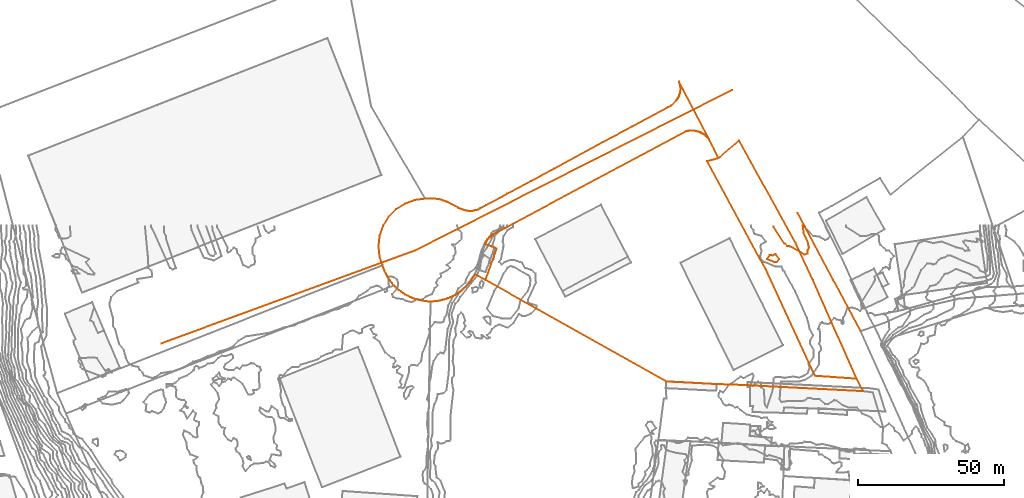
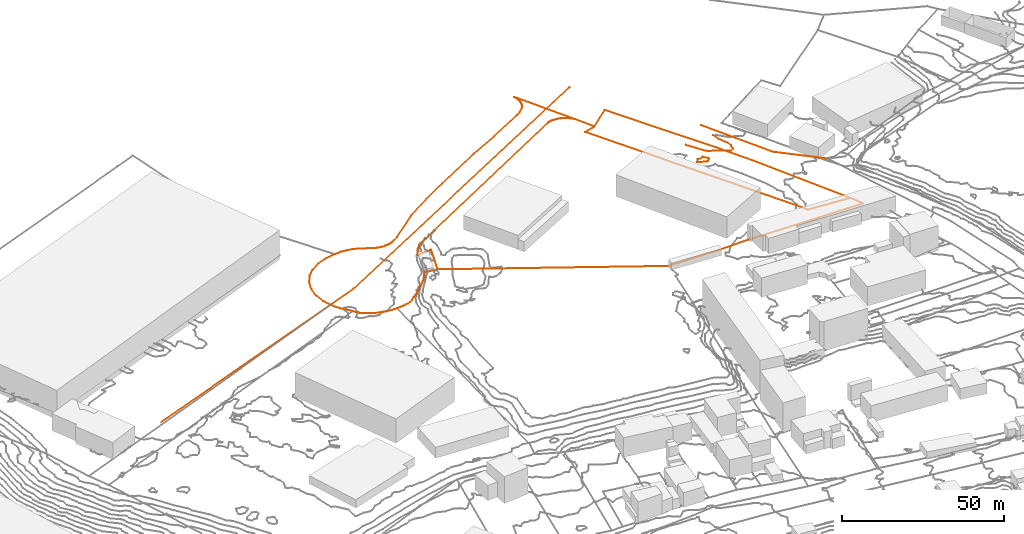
# Not in any storey, part 346 of 419: 7 proxies.
"""IFC2X3 model written with IfcOpenShell, lengths in metres."""

from ifc_helpers import new_model, entity, si_unit, frame, origin_with_axes, place, context, subcontext, project, element, save


model = new_model("IFC2X3")

# Units and contexts
model_context = context("Model", 3, precision=1e-05, world=origin_with_axes())
body_context = subcontext(model_context, "Body", "Model", "MODEL_VIEW")
ifc_project = project(units=[si_unit("AREAUNIT", "SQUARE_METRE"), si_unit("LENGTHUNIT", "METRE")], contexts=[model_context])

# Proxies
proxy_1_placement = place(None, frame((573.6920204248, 1036.6976909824, 52.7), z_axis=(0.0, 0.0, 1.0), x_axis=(1.0, 0.0, 0.0)))
element("IfcBuildingElementProxy", 1, at=proxy_1_placement, Name="Route 66", ObjectType="NOTDEFINED", context=body_context, shape_type="GeometricCurveSet", body=[
    entity("IfcGeometricCurveSet", [entity("IfcPolyline", [entity("IfcCartesianPoint", [21.6, -40.5, 4.4]), entity("IfcCartesianPoint", [12.2000000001, -22.8999999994, -0.4]), entity("IfcCartesianPoint", [0.0, 0.0, 0.0])])]),
])
proxy_2_placement = place(None, frame((354.8920204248, 991.8976909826, 44.4), z_axis=(0.0, 0.0, 1.0), x_axis=(1.0, 0.0, 0.0)))
element("IfcBuildingElementProxy", 2, at=proxy_2_placement, Name="Route 325", ObjectType="NOTDEFINED", context=body_context, shape_type="GeometricCurveSet", body=[
    entity("IfcGeometricCurveSet", [entity("IfcPolyline", [entity("IfcCartesianPoint", [0.0, 0.0, 0.0]), entity("IfcCartesianPoint", [87.3999999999, 32.0, 0.4]), entity("IfcCartesianPoint", [196.2, 87.0999999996, 5.0])])]),
])
proxy_3_placement = place(None, frame((466.3920204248, 1026.0976909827, 47.6540006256), z_axis=(0.0, 0.0, 1.0), x_axis=(1.0, 0.0, 0.0)))
element("IfcBuildingElementProxy", 3, at=proxy_3_placement, Name="Cadastre 273", ObjectType="NOTDEFINED", context=body_context, shape_type="GeometricCurveSet", body=[
    entity("IfcGeometricCurveSet", [entity("IfcPolyline", [entity("IfcCartesianPoint", [0.0599999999, -12.3499999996, 2.159450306]), entity("IfcCartesianPoint", [3.9299999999, -1.5499999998, 1.7422347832]), entity("IfcCartesianPoint", [0.0, 0.0, 0.0]), entity("IfcCartesianPoint", [0.02, 0.0599999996, -0.0094000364]), entity("IfcCartesianPoint", [0.15, 0.3799999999, -0.0421402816]), entity("IfcCartesianPoint", [0.3099999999, 0.7000000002, -0.0508803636]), entity("IfcCartesianPoint", [0.49, 1.0099999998, -0.0282283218]), entity("IfcCartesianPoint", [0.6599999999, 1.3200000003, -0.0073520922]), entity("IfcCartesianPoint", [0.86, 1.6100000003, 0.0155239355]), entity("IfcCartesianPoint", [1.08, 1.8899999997, 0.0526477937]), entity("IfcCartesianPoint", [1.2999999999, 2.1299999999, 0.1039294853]), entity("IfcCartesianPoint", [1.3199999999, 2.1500000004, 0.1092194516]), entity("IfcCartesianPoint", [1.5599999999, 2.4100000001, 0.1544510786]), entity("IfcCartesianPoint", [1.8199999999, 2.6500000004, 0.3003889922]), entity("IfcCartesianPoint", [2.09, 2.8799999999, 0.5688932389]), entity("IfcCartesianPoint", [2.37, 3.0899999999, 0.9059283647]), entity("IfcCartesianPoint", [2.6599999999, 3.29, 1.2441611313]), entity("IfcCartesianPoint", [2.83, 3.3899999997, 1.365392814]), entity("IfcCartesianPoint", [68.77, 38.6200000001, 2.5945996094]), entity("IfcCartesianPoint", [69.14, 38.7199999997, 2.5872008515]), entity("IfcCartesianPoint", [69.51, 38.7999999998, 2.5860010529]), entity("IfcCartesianPoint", [69.88, 38.8700000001, 2.5860010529]), entity("IfcCartesianPoint", [70.26, 38.9199999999, 2.5848010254]), entity("IfcCartesianPoint", [70.64, 38.9399999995, 2.5772008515]), entity("IfcCartesianPoint", [71.02, 38.9500000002, 2.5696006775]), entity("IfcCartesianPoint", [71.4099999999, 38.9399999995, 2.5681002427]), entity("IfcCartesianPoint", [71.7899999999, 38.9000000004, 2.5718996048]), entity("IfcCartesianPoint", [72.1699999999, 38.8499999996, 2.575698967]), entity("IfcCartesianPoint", [72.5399999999, 38.7800000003, 2.579399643]), entity("IfcCartesianPoint", [72.9099999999, 38.6799999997, 2.5831004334]), entity("IfcCartesianPoint", [73.13, 38.6299999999, 2.5853009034]), entity("IfcCartesianPoint", [73.28, 38.5800000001, 2.5860010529]), entity("IfcCartesianPoint", [73.64, 38.4500000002, 2.5860010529]), entity("IfcCartesianPoint", [73.99, 38.2999999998, 2.5860010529]), entity("IfcCartesianPoint", [74.34, 38.1299999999, 2.5874008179]), entity("IfcCartesianPoint", [74.6799999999, 37.9500000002, 2.5908002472]), entity("IfcCartesianPoint", [74.99, 37.75, 2.5938997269]), entity("IfcCartesianPoint", [75.3099999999, 37.5300000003, 2.5959993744]), entity("IfcCartesianPoint", [75.61, 37.29, 2.5959993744]), entity("IfcCartesianPoint", [75.9, 37.04, 2.5959993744]), entity("IfcCartesianPoint", [76.1799999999, 36.7800000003, 2.5959993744]), entity("IfcCartesianPoint", [76.4299999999, 36.5, 2.6005994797]), entity("IfcCartesianPoint", [76.9299999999, 35.8899999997, 2.6105997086]), entity("IfcCartesianPoint", [80.0399999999, 29.4799999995, 2.6411988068]), entity("IfcCartesianPoint", [76.1899999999, 28.4199999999, 2.5959993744]), entity("IfcCartesianPoint", [96.38, -8.8499999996, 2.7374387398]), entity("IfcCartesianPoint", [113.23, -45.25, 5.0003838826]), entity("IfcCartesianPoint", [127.49, -46.2400000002, 5.0180644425]), entity("IfcCartesianPoint", [129.78, -50.5300000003, 4.7511689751]), entity("IfcCartesianPoint", [88.11, -48.3899999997, 3.7241930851]), entity("IfcCartesianPoint", [79.46, -48.0899999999, 3.2177404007]), entity("IfcCartesianPoint", [62.0699999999, -47.1600000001, 2.8262970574]), entity("IfcCartesianPoint", [0.0599999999, -12.3499999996, 2.159450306])])]),
])
proxy_4_placement = place(None, frame((542.5820204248, 1054.5176909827, 50.25), z_axis=(0.0, 0.0, 1.0), x_axis=(1.0, 0.0, 0.0)))
element("IfcBuildingElementProxy", 4, at=proxy_4_placement, Name="Cadastre 276", ObjectType="NOTDEFINED", context=body_context, shape_type="GeometricCurveSet", body=[
    entity("IfcGeometricCurveSet", [entity("IfcPolyline", [entity("IfcCartesianPoint", [10.99, 7.1200000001, 0.109200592]), entity("IfcCartesianPoint", [30.3, -27.9500000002, 0.5736083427]), entity("IfcCartesianPoint", [36.3100000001, -40.7699999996, 1.2098507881]), entity("IfcCartesianPoint", [51.3, -74.6600000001, 2.4220650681]), entity("IfcCartesianPoint", [37.04, -73.6699999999, 2.4043845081]), entity("IfcCartesianPoint", [20.1900000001, -37.2699999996, 0.1414393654]), entity("IfcCartesianPoint", [0.0, 0.0, 0.0]), entity("IfcCartesianPoint", [3.85, 1.0599999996, 0.0451994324]), entity("IfcCartesianPoint", [10.99, 7.1200000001, 0.109200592])])]),
])
proxy_5_placement = place(None, frame((429.7620204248, 1025.417690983, 45.7138632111), z_axis=(0.0, 0.0, 1.0), x_axis=(1.0, 0.0, 0.0)))
element("IfcBuildingElementProxy", 5, at=proxy_5_placement, Name="Cadastre 280", ObjectType="NOTDEFINED", context=body_context, shape_type="GeometricCurveSet", body=[
    entity("IfcGeometricCurveSet", [entity("IfcPolyline", [entity("IfcCartesianPoint", [17.87, -19.04, 0.4679530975]), entity("IfcCartesianPoint", [16.96, -19.0100000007, 0.413722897]), entity("IfcCartesianPoint", [16.0499999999, -18.9300000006, 0.384523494]), entity("IfcCartesianPoint", [15.15, -18.8000000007, 0.3564331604]), entity("IfcCartesianPoint", [14.25, -18.6400000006, 0.3265447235]), entity("IfcCartesianPoint", [13.37, -18.4100000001, 0.3158485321]), entity("IfcCartesianPoint", [12.51, -18.1400000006, 0.3048880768]), entity("IfcCartesianPoint", [11.65, -17.8400000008, 0.2505843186]), entity("IfcCartesianPoint", [10.99, -17.5700000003, 0.225396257]), entity("IfcCartesianPoint", [10.7999999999, -17.4900000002, 0.2194953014]), entity("IfcCartesianPoint", [9.98, -17.0900000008, 0.1990416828]), entity("IfcCartesianPoint", [9.1899999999, -16.6500000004, 0.1998715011]), entity("IfcCartesianPoint", [8.41, -16.1699999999, 0.2038255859]), entity("IfcCartesianPoint", [7.6699999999, -15.6500000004, 0.1804206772]), entity("IfcCartesianPoint", [6.95, -15.0900000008, 0.1748042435]), entity("IfcCartesianPoint", [6.27, -14.4900000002, 0.2334803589]), entity("IfcCartesianPoint", [5.61, -13.8600000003, 0.3559436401]), entity("IfcCartesianPoint", [5.27, -13.5200000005, 0.426935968]), entity("IfcCartesianPoint", [4.59, -12.71, 0.5233928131]), entity("IfcCartesianPoint", [4.01, -11.9400000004, 0.4805518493]), entity("IfcCartesianPoint", [3.46, -11.1400000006, 0.3693178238]), entity("IfcCartesianPoint", [2.97, -10.3100000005, 0.2899150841]), entity("IfcCartesianPoint", [2.9199999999, -10.21, 0.287359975]), entity("IfcCartesianPoint", [2.52, -9.46, 0.223644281]), entity("IfcCartesianPoint", [2.1, -8.5900000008, 0.1247363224]), entity("IfcCartesianPoint", [1.74, -7.6900000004, 0.0419358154]), entity("IfcCartesianPoint", [1.4299999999, -6.7800000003, 0.0249375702]), entity("IfcCartesianPoint", [1.39, -6.6300000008, 0.0208176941]), entity("IfcCartesianPoint", [0.38, -3.5800000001, -0.0240841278]), entity("IfcCartesianPoint", [0.0, 0.0, 0.0]), entity("IfcCartesianPoint", [0.41, 3.5800000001, 0.0204575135]), entity("IfcCartesianPoint", [1.61, 7.0, 0.2991372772]), entity("IfcCartesianPoint", [3.51, 10.0499999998, 0.2869361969]), entity("IfcCartesianPoint", [6.0399999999, 12.6199999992, -0.083862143]), entity("IfcCartesianPoint", [9.08, 14.5599999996, -0.0138643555]), entity("IfcCartesianPoint", [12.47, 15.7999999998, 0.0325373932]), entity("IfcCartesianPoint", [16.0399999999, 16.25, 0.0903361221]), entity("IfcCartesianPoint", [16.27, 16.2799999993, 0.0949362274]), entity("IfcCartesianPoint", [17.3099999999, 16.3399999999, 0.1205358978]), entity("IfcCartesianPoint", [18.35, 16.3300000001, 0.1465355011]), entity("IfcCartesianPoint", [19.38, 16.25, 0.1616368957]), entity("IfcCartesianPoint", [20.41, 16.1099999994, 0.1719368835]), entity("IfcCartesianPoint", [21.4199999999, 15.8899999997, 0.1997367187]), entity("IfcCartesianPoint", [22.41, 15.5899999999, 0.2161370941]), entity("IfcCartesianPoint", [23.39, 15.2299999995, 0.2217361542]), entity("IfcCartesianPoint", [23.7, 15.0699999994, 0.2248356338]), entity("IfcCartesianPoint", [27.2899999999, 13.2199999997, 0.2915358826]), entity("IfcCartesianPoint", [27.52, 13.0800000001, 0.2892362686]), entity("IfcCartesianPoint", [27.98, 12.8199999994, 0.2906366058]), entity("IfcCartesianPoint", [28.46, 12.5999999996, 0.3050360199]), entity("IfcCartesianPoint", [28.96, 12.4199999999, 0.3213356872]), entity("IfcCartesianPoint", [29.47, 12.2699999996, 0.3417361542]), entity("IfcCartesianPoint", [29.99, 12.1699999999, 0.3545367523]), entity("IfcCartesianPoint", [30.51, 12.0800000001, 0.3493376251]), entity("IfcCartesianPoint", [31.0399999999, 12.04, 0.3545375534]), entity("IfcCartesianPoint", [31.58, 12.04, 0.3761359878]), entity("IfcCartesianPoint", [32.11, 12.0699999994, 0.4001361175]), entity("IfcCartesianPoint", [32.63, 12.1499999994, 0.4261377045]), entity("IfcCartesianPoint", [33.15, 12.25, 0.4425372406]), entity("IfcCartesianPoint", [33.66, 12.3899999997, 0.4527355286]), entity("IfcCartesianPoint", [34.16, 12.5599999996, 0.4594356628]), entity("IfcCartesianPoint", [34.66, 12.7799999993, 0.4644367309]), entity("IfcCartesianPoint", [35.08, 13.0099999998, 0.4736367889]), entity("IfcCartesianPoint", [36.9299999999, 14.04, 0.5581372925]), entity("IfcCartesianPoint", [44.2, 17.9099999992, 3.790335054]), entity("IfcCartesianPoint", [52.36, 22.3099999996, 4.7255373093]), entity("IfcCartesianPoint", [60.28, 26.5499999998, 5.069137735]), entity("IfcCartesianPoint", [76.88, 35.6299999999, 5.0551372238]), entity("IfcCartesianPoint", [87.1, 41.0199999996, 4.6434368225]), entity("IfcCartesianPoint", [99.4299999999, 47.6499999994, 4.5661355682]), entity("IfcCartesianPoint", [100.4, 48.1599999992, 4.5661355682]), entity("IfcCartesianPoint", [102.1699999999, 49.8699999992, 4.5561372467]), entity("IfcCartesianPoint", [102.4399999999, 50.1999999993, 4.5561372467]), entity("IfcCartesianPoint", [102.6899999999, 50.5599999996, 4.5561372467]), entity("IfcCartesianPoint", [102.91, 50.9299999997, 4.5545372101]), entity("IfcCartesianPoint", [103.1, 51.3199999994, 4.5507371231]), entity("IfcCartesianPoint", [103.27, 51.7299999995, 4.5473370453]), entity("IfcCartesianPoint", [103.41, 52.1399999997, 4.5445369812]), entity("IfcCartesianPoint", [103.51, 52.5499999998, 4.5425369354]), entity("IfcCartesianPoint", [103.59, 52.9799999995, 4.5409368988]), entity("IfcCartesianPoint", [103.64, 53.4099999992, 4.5399368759]), entity("IfcCartesianPoint", [103.66, 53.8399999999, 4.5395368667]), entity("IfcCartesianPoint", [103.64, 54.2699999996, 4.5399368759]), entity("IfcCartesianPoint", [103.61, 54.6999999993, 4.5405368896]), entity("IfcCartesianPoint", [103.52, 55.1299999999, 4.5423369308]), entity("IfcCartesianPoint", [103.4199999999, 55.5499999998, 4.5443369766]), entity("IfcCartesianPoint", [103.14, 56.3899999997, 4.5499371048]), entity("IfcCartesianPoint", [113.5599999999, 36.5699999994, 4.5507371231]), entity("IfcCartesianPoint", [113.0599999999, 37.1799999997, 4.5407368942]), entity("IfcCartesianPoint", [112.8099999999, 37.46, 4.5361367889]), entity("IfcCartesianPoint", [112.53, 37.7199999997, 4.5361367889]), entity("IfcCartesianPoint", [112.24, 37.9699999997, 4.5361367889]), entity("IfcCartesianPoint", [111.9399999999, 38.21, 4.5361367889]), entity("IfcCartesianPoint", [111.62, 38.4299999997, 4.5340371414]), entity("IfcCartesianPoint", [111.3099999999, 38.6299999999, 4.5309376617]), entity("IfcCartesianPoint", [110.97, 38.8099999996, 4.5275382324]), entity("IfcCartesianPoint", [110.62, 38.9799999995, 4.5261384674]), entity("IfcCartesianPoint", [110.27, 39.1299999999, 4.5261384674]), entity("IfcCartesianPoint", [109.91, 39.2599999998, 4.5261384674]), entity("IfcCartesianPoint", [109.76, 39.3099999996, 4.5254383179]), entity("IfcCartesianPoint", [109.5399999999, 39.3599999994, 4.5232378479]), entity("IfcCartesianPoint", [109.1699999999, 39.46, 4.5195370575]), entity("IfcCartesianPoint", [108.7999999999, 39.5299999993, 4.5158363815]), entity("IfcCartesianPoint", [108.4199999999, 39.5800000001, 4.5120370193]), entity("IfcCartesianPoint", [108.0399999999, 39.6199999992, 4.5082376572]), entity("IfcCartesianPoint", [107.65, 39.6299999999, 4.509738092]), entity("IfcCartesianPoint", [107.27, 39.6199999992, 4.517338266]), entity("IfcCartesianPoint", [106.89, 39.5999999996, 4.5249384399]), entity("IfcCartesianPoint", [106.51, 39.5499999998, 4.5261384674]), entity("IfcCartesianPoint", [106.14, 39.4799999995, 4.5261384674]), entity("IfcCartesianPoint", [105.77, 39.3999999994, 4.527338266]), entity("IfcCartesianPoint", [105.4, 39.2999999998, 4.5347370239]), entity("IfcCartesianPoint", [39.46, 4.0699999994, 3.3055302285]), entity("IfcCartesianPoint", [39.2899999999, 3.9699999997, 3.1842985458]), entity("IfcCartesianPoint", [39.0, 3.7699999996, 2.8460657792]), entity("IfcCartesianPoint", [38.72, 3.5599999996, 2.5090306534]), entity("IfcCartesianPoint", [38.45, 3.3300000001, 2.2405264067]), entity("IfcCartesianPoint", [38.1899999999, 3.0899999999, 2.0945884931]), entity("IfcCartesianPoint", [37.95, 2.8300000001, 2.0493568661]), entity("IfcCartesianPoint", [37.9299999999, 2.8099999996, 2.0440668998]), entity("IfcCartesianPoint", [37.71, 2.5699999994, 1.9927852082]), entity("IfcCartesianPoint", [37.49, 2.29, 1.95566135]), entity("IfcCartesianPoint", [37.2899999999, 2.0, 1.9327853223]), entity("IfcCartesianPoint", [37.12, 1.6899999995, 1.9119090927]), entity("IfcCartesianPoint", [36.9399999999, 1.3799999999, 1.8892570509]), entity("IfcCartesianPoint", [36.78, 1.0599999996, 1.8979971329]), entity("IfcCartesianPoint", [36.65, 0.7399999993, 1.9307373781]), entity("IfcCartesianPoint", [36.63, 0.6799999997, 1.9401374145]), entity("IfcCartesianPoint", [40.5599999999, -0.8700000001, 3.6823721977]), entity("IfcCartesianPoint", [36.6899999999, -11.6699999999, 4.0995877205]), entity("IfcCartesianPoint", [33.09, -9.7600000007, 3.1275138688]), entity("IfcCartesianPoint", [32.7, -10.46, 3.1995093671]), entity("IfcCartesianPoint", [32.21, -11.25, 3.2718821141]), entity("IfcCartesianPoint", [31.7, -11.9900000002, 3.4072807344]), entity("IfcCartesianPoint", [31.14, -12.7000000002, 3.3866360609]), entity("IfcCartesianPoint", [30.5399999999, -13.3900000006, 3.3493392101]), entity("IfcCartesianPoint", [29.91, -14.04, 3.2070473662]), entity("IfcCartesianPoint", [29.25, -14.6699999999, 3.0553862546]), entity("IfcCartesianPoint", [28.5599999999, -15.25, 2.9794673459]), entity("IfcCartesianPoint", [27.83, -15.8000000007, 2.8551355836]), entity("IfcCartesianPoint", [27.08, -16.3000000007, 2.5011358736]), entity("IfcCartesianPoint", [26.86, -16.4400000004, 2.4246860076]), entity("IfcCartesianPoint", [26.2999999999, -16.7800000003, 2.1284677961]), entity("IfcCartesianPoint", [25.5, -17.21, 1.7703278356]), entity("IfcCartesianPoint", [24.6799999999, -17.5900000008, 1.3999117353]), entity("IfcCartesianPoint", [23.84, -17.9300000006, 0.8007222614]), entity("IfcCartesianPoint", [22.98, -18.2300000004, 0.5400367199]), entity("IfcCartesianPoint", [22.11, -18.4800000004, 0.4982805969]), entity("IfcCartesianPoint", [21.22, -18.6800000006, 0.4938634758]), entity("IfcCartesianPoint", [20.33, -18.8300000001, 0.4773363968]), entity("IfcCartesianPoint", [19.4299999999, -18.96, 0.4674159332]), entity("IfcCartesianPoint", [18.53, -19.0200000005, 0.4801374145]), entity("IfcCartesianPoint", [17.87, -19.04, 0.4679530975])])]),
])
proxy_6_placement = place(None, frame((565.440860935, 1031.8976909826, 51.0), z_axis=(0.0, 0.0, 1.0), x_axis=(1.0, 0.0, 0.0)))
element("IfcBuildingElementProxy", 6, at=proxy_6_placement, Name="Contour 51.0 m", ObjectType="NOTDEFINED", context=body_context, shape_type="GeometricCurveSet", body=[
    entity("IfcGeometricCurveSet", [entity("IfcPolyline", [entity("IfcCartesianPoint", [0.0, 0.5, 0.0]), entity("IfcCartesianPoint", [0.0, 0.0, 0.0]), entity("IfcCartesianPoint", [3.6511594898, -5.5833359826, 0.0]), entity("IfcCartesianPoint", [4.6511594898, -6.4999875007, 0.0]), entity("IfcCartesianPoint", [5.6511594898, -6.5999847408, 0.0]), entity("IfcCartesianPoint", [10.6511594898, -9.4999900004, 0.0]), entity("IfcCartesianPoint", [11.6511394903, -9.0, 0.0]), entity("IfcCartesianPoint", [11.6511394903, -8.0, 0.0]), entity("IfcCartesianPoint", [12.0678235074, -7.0, 0.0]), entity("IfcCartesianPoint", [11.6511503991, -5.0, 0.0]), entity("IfcCartesianPoint", [10.2875168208, -2.0, 0.0]), entity("IfcCartesianPoint", [9.9844504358, 0.5, 0.0])])]),
])
proxy_7_placement = place(None, frame((563.0920180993, 1020.8976909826, 52.0), z_axis=(0.0, 0.0, 1.0), x_axis=(1.0, 0.0, 0.0)))
element("IfcBuildingElementProxy", 7, at=proxy_7_placement, Name="Contour 52.0 m", ObjectType="NOTDEFINED", context=body_context, shape_type="GeometricCurveSet", body=[
    entity("IfcGeometricCurveSet", [entity("IfcPolyline", [entity("IfcCartesianPoint", [3.300003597, -1.0, 0.0]), entity("IfcCartesianPoint", [2.6250043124, -1.0, 0.0]), entity("IfcCartesianPoint", [0.0, 0.0, 0.0]), entity("IfcCartesianPoint", [1.0000023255, 1.4516144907, 0.0]), entity("IfcCartesianPoint", [2.0000023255, 1.2727320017, 0.0]), entity("IfcCartesianPoint", [3.0000023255, 1.6999942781, 0.0]), entity("IfcCartesianPoint", [4.2307749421, 0.0, 0.0]), entity("IfcCartesianPoint", [3.300003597, -1.0, 0.0])])]),
])

save(model, "model.ifc")
